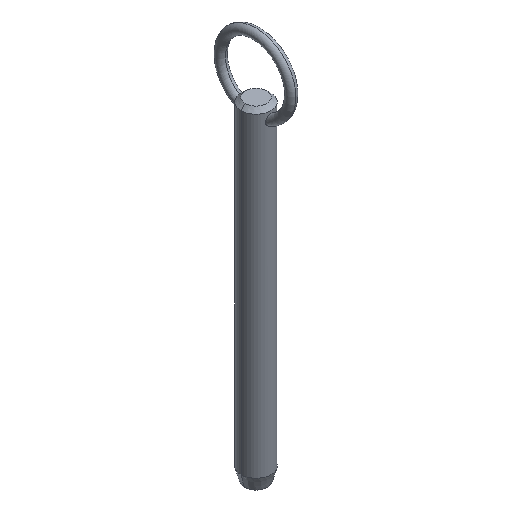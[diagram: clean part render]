
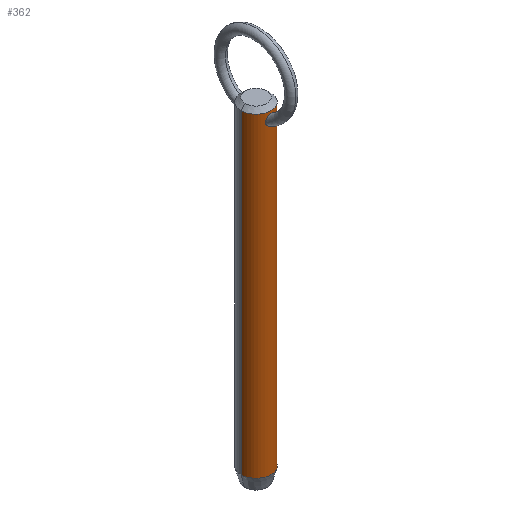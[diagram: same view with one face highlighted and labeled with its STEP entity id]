
A CAD part, isometric view. The second image highlights one B-rep face of the part: STEP entity #362.
In plain terms, the highlighted cylindrical face has radius 4.76 mm (diameter 9.52 mm), a partial arc.
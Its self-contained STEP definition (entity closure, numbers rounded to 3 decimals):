
#6 = CIRCLE ( 'NONE', #248, 4.76 ) ;
#11 = CARTESIAN_POINT ( 'NONE',  ( -0.504, -4.734, 90.538 ) ) ;
#16 = DIRECTION ( 'NONE',  ( -1., 0., 0. ) ) ;
#20 = CARTESIAN_POINT ( 'NONE',  ( 1.404, -4.548, 89.453 ) ) ;
#25 = CARTESIAN_POINT ( 'NONE',  ( 1.478, -4.525, 89.152 ) ) ;
#27 = EDGE_CURVE ( 'NONE', #512, #120, #345, .T. ) ;
#28 = VECTOR ( 'NONE', #498, 1000. ) ;
#29 = VERTEX_POINT ( 'NONE', #101 ) ;
#31 = AXIS2_PLACEMENT_3D ( 'NONE', #179, #453, #414 ) ;
#35 = CARTESIAN_POINT ( 'NONE',  ( -4.76, 0., 91.45 ) ) ;
#49 = DIRECTION ( 'NONE',  ( 0., 0., -1. ) ) ;
#56 = CARTESIAN_POINT ( 'NONE',  ( 0.104, -4.76, 90.648 ) ) ;
#62 = DIRECTION ( 'NONE',  ( 0., 0., -1. ) ) ;
#63 = CARTESIAN_POINT ( 'NONE',  ( -1.483, -4.524, 88.526 ) ) ;
#64 = FACE_OUTER_BOUND ( 'NONE', #118, .T. ) ;
#66 = CARTESIAN_POINT ( 'NONE',  ( 1.434, -4.539, 89.354 ) ) ;
#68 = CARTESIAN_POINT ( 'NONE',  ( 0.97, -4.662, 87.65 ) ) ;
#72 = CARTESIAN_POINT ( 'NONE',  ( 1.45, -4.534, 88.428 ) ) ;
#93 = EDGE_LOOP ( 'NONE', ( #496, #328 ) ) ;
#101 = CARTESIAN_POINT ( 'NONE',  ( 0., -4.76, 90.648 ) ) ;
#103 = ORIENTED_EDGE ( 'NONE', *, *, #225, .T. ) ;
#106 = CARTESIAN_POINT ( 'NONE',  ( 0., 0., -8.7 ) ) ;
#110 = CARTESIAN_POINT ( 'NONE',  ( 1.24, -4.596, 87.96 ) ) ;
#111 = CARTESIAN_POINT ( 'NONE',  ( -1.19, -4.611, 89.924 ) ) ;
#113 = CARTESIAN_POINT ( 'NONE',  ( -0.961, -4.663, 87.657 ) ) ;
#115 = CARTESIAN_POINT ( 'NONE',  ( -4.76, 0., -8.7 ) ) ;
#118 = EDGE_LOOP ( 'NONE', ( #421, #103, #174, #334 ) ) ;
#120 = VERTEX_POINT ( 'NONE', #326 ) ;
#142 = VERTEX_POINT ( 'NONE', #35 ) ;
#144 = CARTESIAN_POINT ( 'NONE',  ( 0.209, -4.756, 90.634 ) ) ;
#151 = CARTESIAN_POINT ( 'NONE',  ( -0.409, -4.743, 90.578 ) ) ;
#155 = CARTESIAN_POINT ( 'NONE',  ( 1.503, -4.517, 88.84 ) ) ;
#156 = CARTESIAN_POINT ( 'NONE',  ( -1.353, -4.564, 88.135 ) ) ;
#157 = CARTESIAN_POINT ( 'NONE',  ( 1.19, -4.611, 89.924 ) ) ;
#159 = CARTESIAN_POINT ( 'NONE',  ( 0., 0., 86.4 ) ) ;
#174 = ORIENTED_EDGE ( 'NONE', *, *, #251, .T. ) ;
#179 = CARTESIAN_POINT ( 'NONE',  ( 0., 0., 91.45 ) ) ;
#185 = CARTESIAN_POINT ( 'NONE',  ( 0.409, -4.743, 90.578 ) ) ;
#193 = CARTESIAN_POINT ( 'NONE',  ( 0.105, -4.76, 87.326 ) ) ;
#194 = CARTESIAN_POINT ( 'NONE',  ( -1.508, -4.515, 88.737 ) ) ;
#197 = CARTESIAN_POINT ( 'NONE',  ( 1.492, -4.52, 89.048 ) ) ;
#212 = CARTESIAN_POINT ( 'NONE',  ( -4.76, 0., 86.4 ) ) ;
#218 = B_SPLINE_CURVE_WITH_KNOTS ( 'NONE', 3,
 ( #273, #468, #472, #347, #233, #113, #353, #466, #156, #63, #194, #237, #272, #424, #111, #348, #387, #11, #151, #238, #228, #423 ),
 .UNSPECIFIED., .F., .F.,
 ( 4, 2, 2, 2, 2, 2, 2, 2, 2, 2, 4 ),
 ( 0.009, 0.01, 0.01, 0.011, 0.011, 0.012, 0.012, 0.013, 0.014, 0.014, 0.014 ),
 .UNSPECIFIED. ) ;
#225 = EDGE_CURVE ( 'NONE', #512, #142, #412, .T. ) ;
#228 = CARTESIAN_POINT ( 'NONE',  ( -0.103, -4.76, 90.648 ) ) ;
#232 = CARTESIAN_POINT ( 'NONE',  ( 1.293, -4.582, 89.742 ) ) ;
#233 = CARTESIAN_POINT ( 'NONE',  ( -0.793, -4.694, 87.539 ) ) ;
#236 = CARTESIAN_POINT ( 'NONE',  ( 0., -4.76, 87.326 ) ) ;
#237 = CARTESIAN_POINT ( 'NONE',  ( -1.487, -4.522, 89.153 ) ) ;
#238 = CARTESIAN_POINT ( 'NONE',  ( -0.208, -4.757, 90.634 ) ) ;
#248 = AXIS2_PLACEMENT_3D ( 'NONE', #106, #390, #16 ) ;
#251 = EDGE_CURVE ( 'NONE', #142, #437, #495, .T. ) ;
#272 = CARTESIAN_POINT ( 'NONE',  ( -1.441, -4.537, 89.357 ) ) ;
#273 = CARTESIAN_POINT ( 'NONE',  ( 0., -4.76, 87.326 ) ) ;
#281 = VECTOR ( 'NONE', #49, 1000. ) ;
#292 = EDGE_CURVE ( 'NONE', #335, #29, #218, .T. ) ;
#300 = AXIS2_PLACEMENT_3D ( 'NONE', #159, #62, #432 ) ;
#307 = CARTESIAN_POINT ( 'NONE',  ( 1.473, -4.526, 88.531 ) ) ;
#309 = CARTESIAN_POINT ( 'NONE',  ( 0.687, -4.711, 90.435 ) ) ;
#312 = CARTESIAN_POINT ( 'NONE',  ( 0.925, -4.67, 90.239 ) ) ;
#313 = FACE_BOUND ( 'NONE', #93, .T. ) ;
#316 = CARTESIAN_POINT ( 'NONE',  ( 1.385, -4.554, 88.232 ) ) ;
#326 = CARTESIAN_POINT ( 'NONE',  ( 4.76, 0., -8.7 ) ) ;
#328 = ORIENTED_EDGE ( 'NONE', *, *, #292, .T. ) ;
#334 = ORIENTED_EDGE ( 'NONE', *, *, #363, .T. ) ;
#335 = VERTEX_POINT ( 'NONE', #355 ) ;
#345 = LINE ( 'NONE', #383, #28 ) ;
#347 = CARTESIAN_POINT ( 'NONE',  ( -0.703, -4.709, 87.489 ) ) ;
#348 = CARTESIAN_POINT ( 'NONE',  ( -0.932, -4.67, 90.245 ) ) ;
#349 = CARTESIAN_POINT ( 'NONE',  ( 0.411, -4.743, 87.377 ) ) ;
#352 = CARTESIAN_POINT ( 'NONE',  ( 0.997, -4.655, 90.164 ) ) ;
#353 = CARTESIAN_POINT ( 'NONE',  ( -1.039, -4.646, 87.726 ) ) ;
#355 = CARTESIAN_POINT ( 'NONE',  ( 0., -4.76, 87.326 ) ) ;
#362 = ADVANCED_FACE ( 'NONE', ( #64, #313 ), #517, .T. ) ;
#363 = EDGE_CURVE ( 'NONE', #437, #120, #6, .T. ) ;
#383 = CARTESIAN_POINT ( 'NONE',  ( 4.76, 0., 86.4 ) ) ;
#387 = CARTESIAN_POINT ( 'NONE',  ( -0.777, -4.7, 90.385 ) ) ;
#390 = DIRECTION ( 'NONE',  ( 0., 0., 1. ) ) ;
#393 = CARTESIAN_POINT ( 'NONE',  ( 0.506, -4.734, 90.537 ) ) ;
#396 = CARTESIAN_POINT ( 'NONE',  ( 1.344, -4.567, 88.139 ) ) ;
#412 = CIRCLE ( 'NONE', #31, 4.76 ) ;
#414 = DIRECTION ( 'NONE',  ( 1., 0., 0. ) ) ;
#421 = ORIENTED_EDGE ( 'NONE', *, *, #27, .F. ) ;
#423 = CARTESIAN_POINT ( 'NONE',  ( 0., -4.76, 90.648 ) ) ;
#424 = CARTESIAN_POINT ( 'NONE',  ( -1.292, -4.582, 89.745 ) ) ;
#428 = CARTESIAN_POINT ( 'NONE',  ( 0.797, -4.697, 87.529 ) ) ;
#432 = DIRECTION ( 'NONE',  ( -1., 0., 0. ) ) ;
#433 = CARTESIAN_POINT ( 'NONE',  ( 0.512, -4.733, 87.408 ) ) ;
#437 = VERTEX_POINT ( 'NONE', #115 ) ;
#452 = B_SPLINE_CURVE_WITH_KNOTS ( 'NONE', 3,
 ( #463, #56, #144, #185, #393, #309, #471, #312, #352, #157, #232, #20, #66, #25, #197, #155, #473, #307, #72, #316, #396, #110, #467, #68, #428, #433, #349, #475, #193, #236 ),
 .UNSPECIFIED., .F., .F.,
 ( 4, 2, 2, 2, 2, 2, 2, 2, 2, 2, 2, 2, 2, 2, 4 ),
 ( 0.004, 0.005, 0.005, 0.005, 0.006, 0.006, 0.007, 0.007, 0.007, 0.007, 0.008, 0.008, 0.009, 0.009, 0.009 ),
 .UNSPECIFIED. ) ;
#453 = DIRECTION ( 'NONE',  ( 0., 0., -1. ) ) ;
#463 = CARTESIAN_POINT ( 'NONE',  ( 0., -4.76, 90.648 ) ) ;
#466 = CARTESIAN_POINT ( 'NONE',  ( -1.247, -4.596, 87.952 ) ) ;
#467 = CARTESIAN_POINT ( 'NONE',  ( 1.178, -4.613, 87.876 ) ) ;
#468 = CARTESIAN_POINT ( 'NONE',  ( -0.21, -4.76, 87.326 ) ) ;
#471 = CARTESIAN_POINT ( 'NONE',  ( 0.77, -4.698, 90.375 ) ) ;
#472 = CARTESIAN_POINT ( 'NONE',  ( -0.416, -4.746, 87.367 ) ) ;
#473 = CARTESIAN_POINT ( 'NONE',  ( 1.499, -4.518, 88.737 ) ) ;
#475 = CARTESIAN_POINT ( 'NONE',  ( 0.208, -4.757, 87.336 ) ) ;
#495 = LINE ( 'NONE', #212, #281 ) ;
#496 = ORIENTED_EDGE ( 'NONE', *, *, #515, .T. ) ;
#498 = DIRECTION ( 'NONE',  ( 0., 0., -1. ) ) ;
#512 = VERTEX_POINT ( 'NONE', #520 ) ;
#515 = EDGE_CURVE ( 'NONE', #29, #335, #452, .T. ) ;
#517 = CYLINDRICAL_SURFACE ( 'NONE', #300, 4.76 ) ;
#520 = CARTESIAN_POINT ( 'NONE',  ( 4.76, 0., 91.45 ) ) ;
